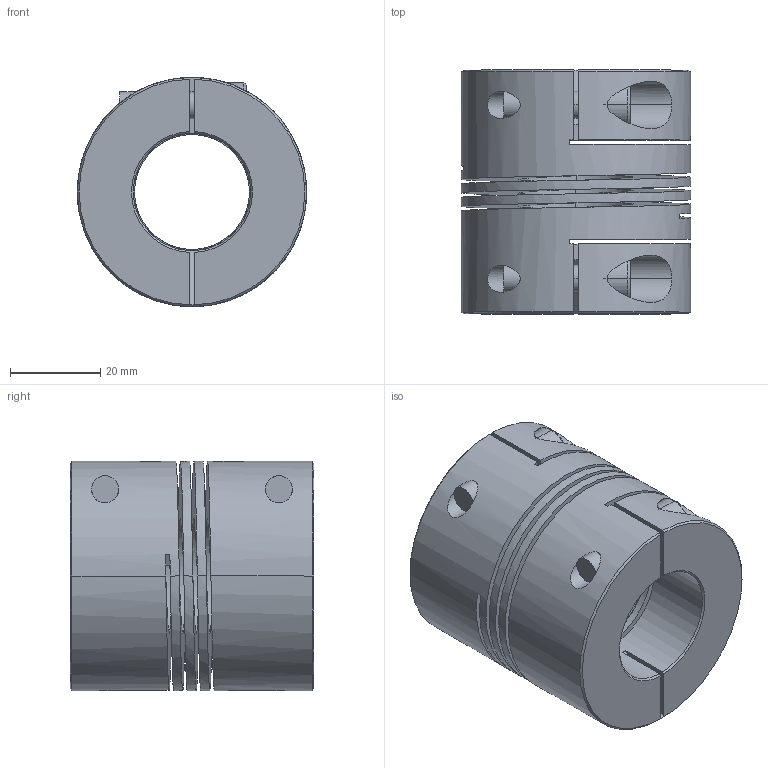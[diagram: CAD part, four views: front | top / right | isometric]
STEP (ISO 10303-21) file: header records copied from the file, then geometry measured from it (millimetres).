
FILE_DESCRIPTION((''),'2;1');
FILE_NAME('827_50','2006-12-06T',('Gary Melling'),(''),'PRO/ENGINEER BY PARAMETRIC TECHNOLOGY CORPORATION, 2006240','PRO/ENGINEER BY PARAMETRIC TECHNOLOGY CORPORATION, 2006240','');
FILE_SCHEMA(('CONFIG_CONTROL_DESIGN'));
Length unit declared in the file: millimetre
Products named in the file (1): 827_50
Bounding box: 50.8 x 54 x 50.8 mm (x, y, z)
Volume: 72592.1 mm3; surface area: 30857.8 mm2
Topology: 1 solids, 1 shells, 97 faces, 259 edges, 170 vertices
Faces by surface type: plane 48, cylinder 37, cone 10, bspline 2
Entity records: 4372 total; most frequent: CARTESIAN_POINT 1955, ORIENTED_EDGE 518, DIRECTION 457, EDGE_CURVE 259, VERTEX_POINT 170, AXIS2_PLACEMENT_3D 165, VECTOR 127, LINE 127
